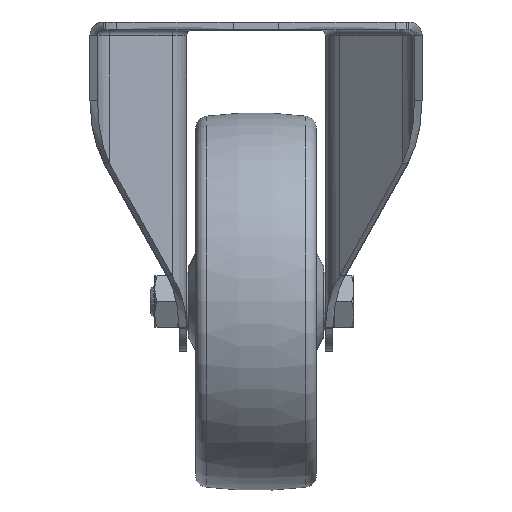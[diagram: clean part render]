
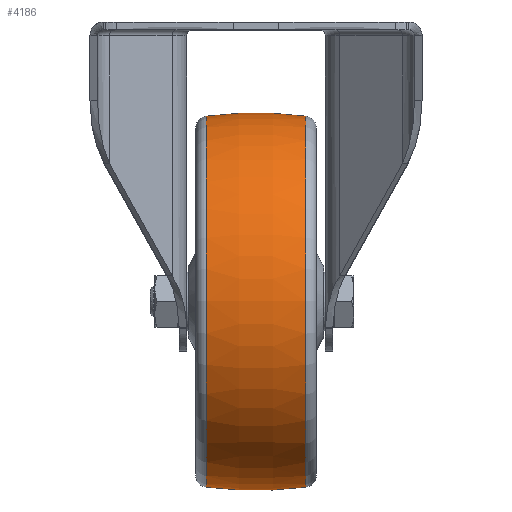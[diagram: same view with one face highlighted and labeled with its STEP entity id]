
A CAD part, top view. The second image highlights one B-rep face of the part: STEP entity #4186.
In plain terms, the highlighted toroidal (fillet/blend) face has major radius 67.5 mm and minor radius 130 mm.
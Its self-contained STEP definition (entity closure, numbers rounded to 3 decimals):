
#1984 = DIRECTION ( 'NONE',  ( -1., 0., 0. ) ) ;
#3376 = VERTEX_POINT ( 'NONE', #9283 ) ;
#3861 = AXIS2_PLACEMENT_3D ( 'NONE', #19369, #33393, #19164 ) ;
#4186 = ADVANCED_FACE ( 'NONE', ( #4271 ), #37525, .T. ) ;
#4271 = FACE_OUTER_BOUND ( 'NONE', #36763, .T. ) ;
#5389 = DIRECTION ( 'NONE',  ( 0., 0., -1. ) ) ;
#7265 = CARTESIAN_POINT ( 'NONE',  ( 0., 0., 0. ) ) ;
#7478 = ORIENTED_EDGE ( 'NONE', *, *, #28830, .F. ) ;
#7642 = VERTEX_POINT ( 'NONE', #39803 ) ;
#8022 = CIRCLE ( 'NONE', #48775, 61.448 ) ;
#9283 = CARTESIAN_POINT ( 'NONE',  ( -16.508, -61.448, 0. ) ) ;
#10215 = DIRECTION ( 'NONE',  ( 0.127, -0.992, 0. ) ) ;
#11555 = DIRECTION ( 'NONE',  ( 0., -1., 0. ) ) ;
#12124 = EDGE_CURVE ( 'NONE', #51825, #7642, #51379, .T. ) ;
#17662 = CARTESIAN_POINT ( 'NONE',  ( 0., -67.5, 0. ) ) ;
#19164 = DIRECTION ( 'NONE',  ( 0., -1., 0. ) ) ;
#19369 = CARTESIAN_POINT ( 'NONE',  ( 16.508, 0., 0. ) ) ;
#21285 = EDGE_CURVE ( 'NONE', #24174, #3376, #38828, .T. ) ;
#24174 = VERTEX_POINT ( 'NONE', #54372 ) ;
#26195 = DIRECTION ( 'NONE',  ( 0.127, 0.992, 0. ) ) ;
#26486 = AXIS2_PLACEMENT_3D ( 'NONE', #7265, #1984, #11555 ) ;
#26916 = CARTESIAN_POINT ( 'NONE',  ( 16.508, 61.448, 0. ) ) ;
#28830 = EDGE_CURVE ( 'NONE', #24174, #51825, #49233, .T. ) ;
#29747 = ORIENTED_EDGE ( 'NONE', *, *, #21285, .T. ) ;
#32124 = ORIENTED_EDGE ( 'NONE', *, *, #44491, .T. ) ;
#33393 = DIRECTION ( 'NONE',  ( 1., 0., 0. ) ) ;
#33936 = AXIS2_PLACEMENT_3D ( 'NONE', #17662, #53118, #26195 ) ;
#35589 = DIRECTION ( 'NONE',  ( 1., 0., 0. ) ) ;
#36728 = CARTESIAN_POINT ( 'NONE',  ( 0., 67.5, 0. ) ) ;
#36763 = EDGE_LOOP ( 'NONE', ( #32124, #50558, #7478, #29747 ) ) ;
#37525 = TOROIDAL_SURFACE ( 'NONE', #26486, -67.5, 130. ) ;
#38828 = CIRCLE ( 'NONE', #54408, 130. ) ;
#39803 = CARTESIAN_POINT ( 'NONE',  ( -16.508, 61.448, 0. ) ) ;
#40063 = DIRECTION ( 'NONE',  ( 0., -1., 0. ) ) ;
#44329 = CARTESIAN_POINT ( 'NONE',  ( -16.508, 0., 0. ) ) ;
#44491 = EDGE_CURVE ( 'NONE', #3376, #7642, #8022, .T. ) ;
#48775 = AXIS2_PLACEMENT_3D ( 'NONE', #44329, #35589, #40063 ) ;
#49233 = CIRCLE ( 'NONE', #3861, 61.448 ) ;
#50558 = ORIENTED_EDGE ( 'NONE', *, *, #12124, .F. ) ;
#51379 = CIRCLE ( 'NONE', #33936, 130. ) ;
#51825 = VERTEX_POINT ( 'NONE', #26916 ) ;
#53118 = DIRECTION ( 'NONE',  ( 0., 0., 1. ) ) ;
#54372 = CARTESIAN_POINT ( 'NONE',  ( 16.508, -61.448, 0. ) ) ;
#54408 = AXIS2_PLACEMENT_3D ( 'NONE', #36728, #5389, #10215 ) ;
